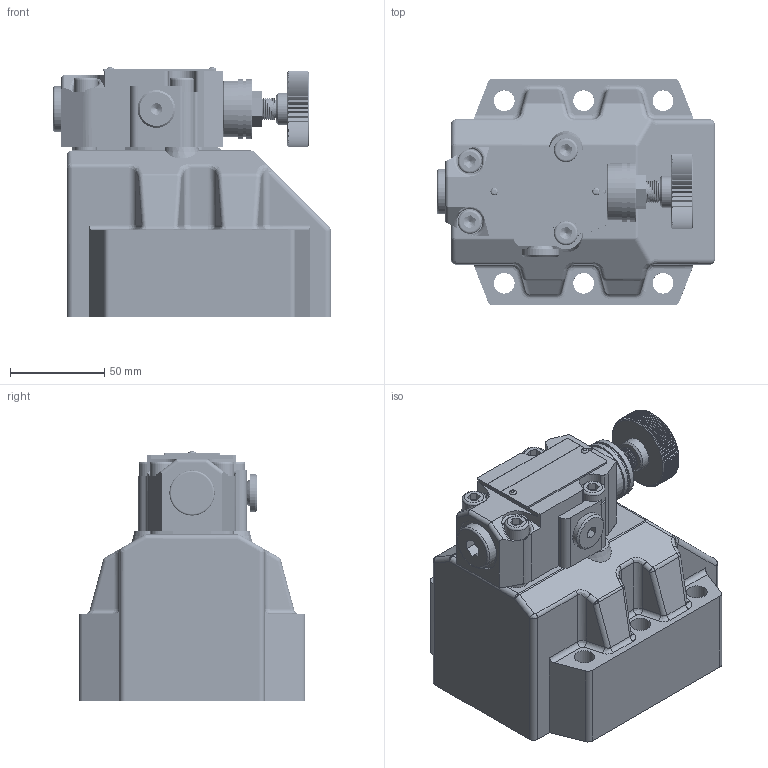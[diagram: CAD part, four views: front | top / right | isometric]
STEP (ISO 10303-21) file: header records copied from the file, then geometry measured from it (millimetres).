
FILE_DESCRIPTION(/* description */ (''),/* implementation_level */ '2;1');
FILE_NAME(/* name */ 'DZ30-5XJ先导式顺序阀.prt.stp',/* time_stamp */ '2022-03-30T20:19:03+08:00',/* author */ (''),/* organization */ (''),/* preprocessor_version */ 'ST-DEVELOPER v16.7',/* originating_system */ 'SIEMENS PLM Software NX 12.0',/* authorisation */ '');
FILE_SCHEMA (('AUTOMOTIVE_DESIGN { 1 0 10303 214 3 1 1 1 }'));
Products named in the file (1): DZ30-5XJ先导式顺序阀
Bounding box: 147.3 x 120 x 132 mm (x, y, z)
Volume: 1272264.8 mm3; surface area: 145590.1 mm2
Topology: 17 solids, 19 shells, 1025 faces, 2706 edges, 1736 vertices
Faces by surface type: plane 610, cylinder 238, bspline 84, cone 65, torus 21, sphere 5, revolution 2
Full cylindrical faces by diameter (mm): 1.8 x4, 1.9 x2, 2 x1, 3.4 x16, 4 x1, 4.2 x2, 6 x2, 6.5 x3, 7 x4, 8.4 x4, 9 x7, 10 x2, 11 x6, 11.5 x1, 12.2 x2, 12.5 x1, 12.73 x4, 14 x1, 15.39 x1, 16 x1, 17 x1, 19 x2, 20 x1, 21 x1, 24 x1, 28 x1, 30 x2, 32 x1, 34.309 x1, 41 x3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
Entity records: 92495 total; most frequent: CARTESIAN_POINT 69000, ORIENTED_EDGE 4934, DIRECTION 3773, EDGE_CURVE 2467, VERTEX_POINT 1653, AXIS2_PLACEMENT_3D 1424, EDGE_LOOP 1167, B_SPLINE_CURVE_WITH_KNOTS 1024
